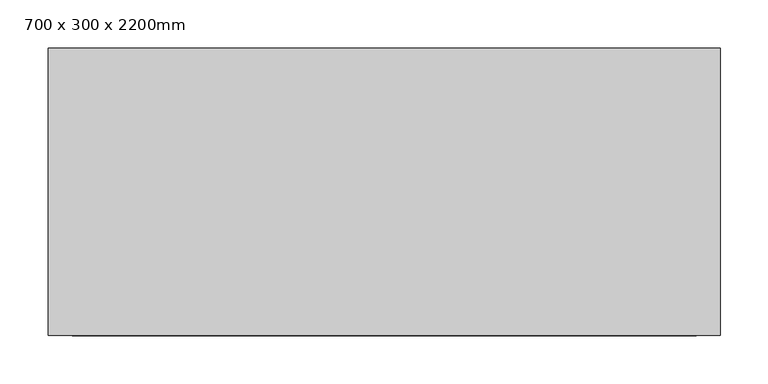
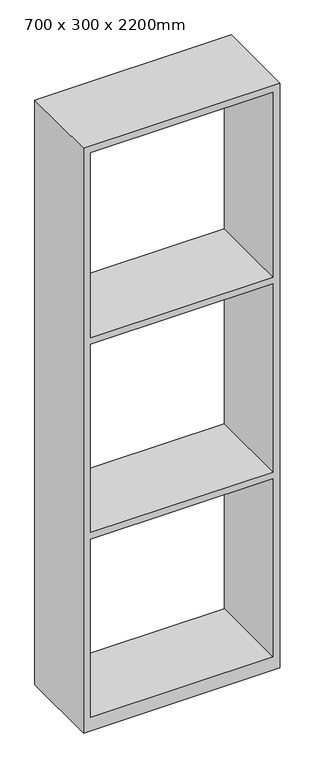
"""IFC4 building model written with IfcOpenShell, lengths in millimetres: furniture geometry, Shelving (Floor) - Allround : 700 x 300 x 2200mm."""

from ifc_helpers import new_model, si_unit, frame, origin, place, context, project, spatial, polyline, outline, extrude, source, transform, mapped, element, save


def furniture_700_x_300_x_2200mm_207dd1db(model_context):
    return source(origin(), model_context, "Body", "SweptSolid", [
        extrude(outline(polyline([(0.0, 350.0), (2200.0, 350.0), (2200.0, -350.0), (0.0, -350.0), (0.0, 350.0)]), holes=[polyline([(2175.0, 325.0), (1479.3666667, 325.0), (1479.3666667, -325.0), (2175.0, -325.0), (2175.0, 325.0)]), polyline([(50.0, 325.0), (50.0, -325.0), (720.6333333, -325.0), (720.6333333, 325.0), (50.0, 325.0)]), polyline([(1453.9666667, -325.0), (1453.9666667, 325.0), (746.0333333, 325.0), (746.0333333, -325.0), (1453.9666667, -325.0)])]), frame((0.0, -454.8, 0.0), z_axis=(0.0, 1.0, 0.0), x_axis=(0.0, 0.0, 1.0)), (0.0, 0.0, 1.0), 300.0),
    ])


if __name__ == "__main__":
    model = new_model("IFC4")
    model_context = context("Model", 3, world=origin())
    ifc_project = project(units=[si_unit("LENGTHUNIT", "METRE", prefix="MILLI")], contexts=[model_context])
    site = spatial("IfcSite", under=ifc_project)
    building = spatial("IfcBuilding", under=site)
    placement = place(None, origin())
    furniture_700_x_300_x_2200mm_shape = furniture_700_x_300_x_2200mm_207dd1db(model_context)
    element("IfcFurniture", 1, ObjectType="Shelving (Floor) - Allround : 700 x 300 x 2200mm", at=placement, inside=building, context=model_context, shape_type="MappedRepresentation", body=[
        mapped(furniture_700_x_300_x_2200mm_shape, transform((0.0, 0.0, 0.0), x_axis=(1.0, 0.0, 0.0), y_axis=(0.0, 1.0, 0.0), z_axis=(0.0, 0.0, 1.0))),
    ])
    save(model, "model.ifc")
